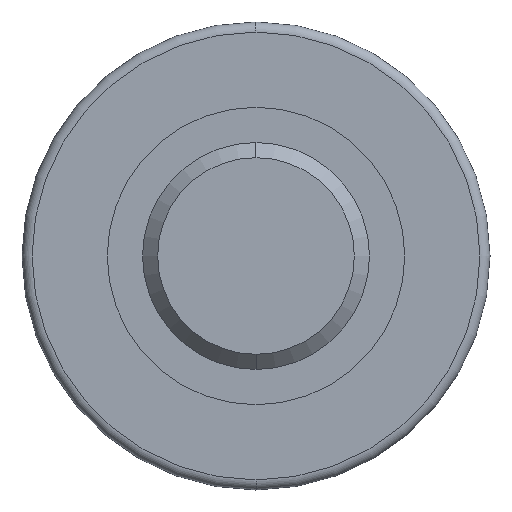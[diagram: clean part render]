
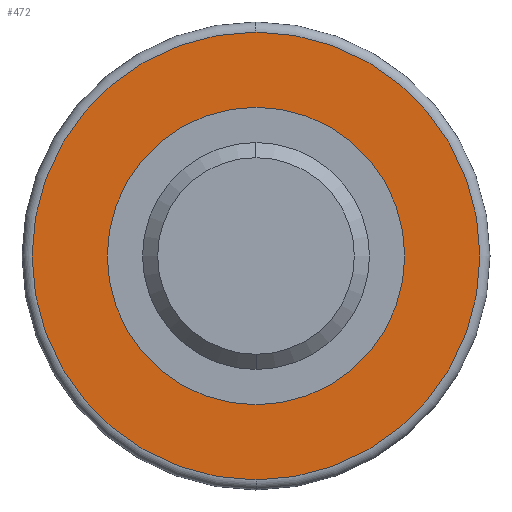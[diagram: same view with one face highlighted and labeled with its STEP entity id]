
A CAD part, left-side view. The second image highlights one B-rep face of the part: STEP entity #472.
In plain terms, the highlighted planar face has unit normal (-1, 0, 0).
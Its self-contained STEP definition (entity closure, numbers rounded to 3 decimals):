
#15 = DIRECTION ( 'NONE',  ( 0., 0., -1. ) ) ;
#26 = VERTEX_POINT ( 'NONE', #350 ) ;
#33 = ORIENTED_EDGE ( 'NONE', *, *, #295, .T. ) ;
#51 = AXIS2_PLACEMENT_3D ( 'NONE', #228, #489, #133 ) ;
#62 = VERTEX_POINT ( 'NONE', #427 ) ;
#86 = AXIS2_PLACEMENT_3D ( 'NONE', #296, #385, #250 ) ;
#96 = EDGE_CURVE ( 'NONE', #448, #62, #169, .T. ) ;
#106 = CARTESIAN_POINT ( 'NONE',  ( 0., 0., -44.4 ) ) ;
#131 = AXIS2_PLACEMENT_3D ( 'NONE', #382, #424, #15 ) ;
#133 = DIRECTION ( 'NONE',  ( 0., 0., -1. ) ) ;
#143 = CARTESIAN_POINT ( 'NONE',  ( 0., 0., -29.5 ) ) ;
#144 = EDGE_LOOP ( 'NONE', ( #195, #33 ) ) ;
#169 = CIRCLE ( 'NONE', #444, 44.4 ) ;
#186 = DIRECTION ( 'NONE',  ( -1., 0., 0. ) ) ;
#195 = ORIENTED_EDGE ( 'NONE', *, *, #96, .T. ) ;
#216 = CIRCLE ( 'NONE', #341, 29.5 ) ;
#218 = ORIENTED_EDGE ( 'NONE', *, *, #422, .F. ) ;
#228 = CARTESIAN_POINT ( 'NONE',  ( 0., 0., 0. ) ) ;
#249 = FACE_BOUND ( 'NONE', #425, .T. ) ;
#250 = DIRECTION ( 'NONE',  ( 0., 0., -1. ) ) ;
#271 = CIRCLE ( 'NONE', #131, 44.4 ) ;
#290 = EDGE_CURVE ( 'NONE', #26, #398, #480, .T. ) ;
#294 = DIRECTION ( 'NONE',  ( -1., 0., 0. ) ) ;
#295 = EDGE_CURVE ( 'NONE', #62, #448, #271, .T. ) ;
#296 = CARTESIAN_POINT ( 'NONE',  ( 0., 0., 0. ) ) ;
#300 = FACE_OUTER_BOUND ( 'NONE', #144, .T. ) ;
#317 = DIRECTION ( 'NONE',  ( 0., 0., -1. ) ) ;
#341 = AXIS2_PLACEMENT_3D ( 'NONE', #453, #294, #410 ) ;
#350 = CARTESIAN_POINT ( 'NONE',  ( 0., 0., 29.5 ) ) ;
#364 = PLANE ( 'NONE',  #51 ) ;
#370 = ORIENTED_EDGE ( 'NONE', *, *, #290, .F. ) ;
#382 = CARTESIAN_POINT ( 'NONE',  ( 0., 0., 0. ) ) ;
#385 = DIRECTION ( 'NONE',  ( -1., 0., 0. ) ) ;
#398 = VERTEX_POINT ( 'NONE', #143 ) ;
#410 = DIRECTION ( 'NONE',  ( 0., 0., -1. ) ) ;
#421 = CARTESIAN_POINT ( 'NONE',  ( 0., 0., 0. ) ) ;
#422 = EDGE_CURVE ( 'NONE', #398, #26, #216, .T. ) ;
#424 = DIRECTION ( 'NONE',  ( -1., 0., 0. ) ) ;
#425 = EDGE_LOOP ( 'NONE', ( #218, #370 ) ) ;
#427 = CARTESIAN_POINT ( 'NONE',  ( 0., 0., 44.4 ) ) ;
#444 = AXIS2_PLACEMENT_3D ( 'NONE', #421, #186, #317 ) ;
#448 = VERTEX_POINT ( 'NONE', #106 ) ;
#453 = CARTESIAN_POINT ( 'NONE',  ( 0., 0., 0. ) ) ;
#472 = ADVANCED_FACE ( 'NONE', ( #249, #300 ), #364, .F. ) ;
#480 = CIRCLE ( 'NONE', #86, 29.5 ) ;
#489 = DIRECTION ( 'NONE',  ( 1., 0., 0. ) ) ;
